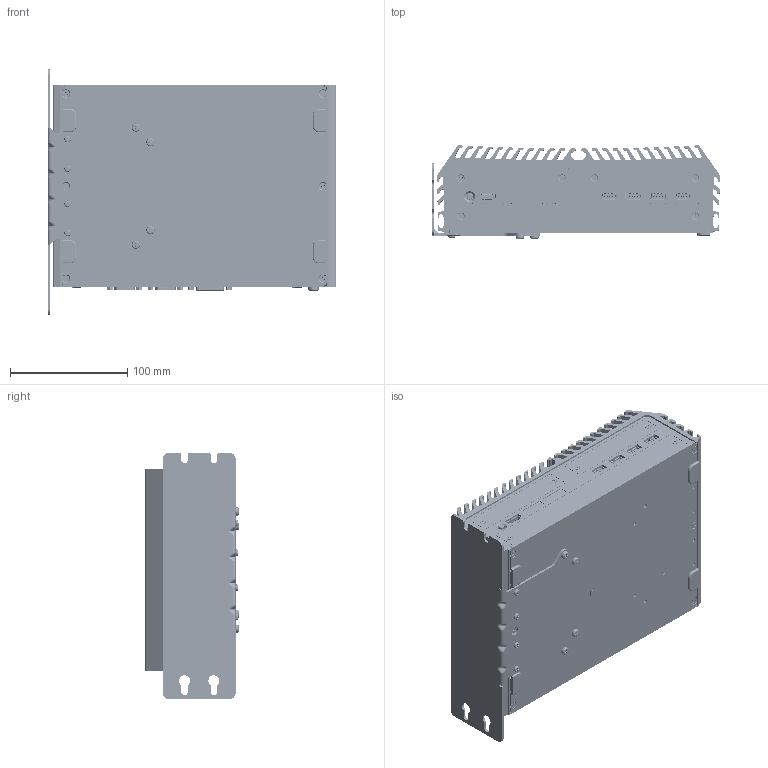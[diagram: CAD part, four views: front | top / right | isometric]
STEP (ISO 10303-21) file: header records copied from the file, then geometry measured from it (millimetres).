
FILE_DESCRIPTION (( 'STEP AP203' ), '1' );
FILE_NAME ('DX-1200+Side Mount_20230703.STEP', '2023-07-03T02:55:06', ( '' ), ( '' ), 'SwSTEP 2.0', 'SolidWorks 2014', '' );
FILE_SCHEMA (( 'CONFIG_CONTROL_DESIGN' ));
Length unit declared in the file: millimetre
Products named in the file (31): PWR_BTN_TC003; Top Cover; Rubber Foot(M4-RUFT0100001); WHDM-19FLBSDR; Terminal Block_ECH350R-02P(23-D0341500020); Top Cover(M1-408100006300); Symbol_Panel(M0-ZZZZ5C3003); Main Board; Audio Jack_雙層_T-A032134001(23-D0262300090); Bottom Cover(M1-408100011100); Side Mount Stand(M1-208100061200); Copper Stud_S38400B25N01(M3-COSD6L00000); D-SUB 9_雙層_D20H1P1PA112A111N2(23-D0101100181); Front Bezel(M1-408110024100); P頭_M3x5(十字)(M3-N103050010); F頭_M3x5(T10)(120)_黑(M3-N103052230); Terminal Block_ECH350R-04P(23-D0341500040); Rear Bezel(M1-408100031200); P頭_M4x5(十字)(M3-SCRE5B00002); F頭_M3X8(T10)(90)_黑(M3-N103082260); DVI-1-H-RISE(23-D0092300293); Front Matching Bezel(CNC)(M1-408100081220); DX-1200+Side Mount_20230703; F頭_M3x18(T10)(120)+溝槽_黑(M3-1103182270); RJ45+USB3.0x2_三層_JFM38U1B_B313_4F(23-D0202300320); Small Matching Bezel(M1-408100081200); P頭_M5x8(十字)(太陽華司)(M3-SCREAB00002) ; DC_IN1_5EHDRM-03P_8(23-D0341500030); DP1_Displayport_(23-D0242300200); Hole_Plug,MHD-7(M4-RUBR0100000); USB3.0_SMT_122-0921NA0504(23-S0142300090)
Assembly tree (71 placements, depth 3):
  DX-1200+Side Mount_20230703
    Top Cover(M1-408100006300)
      Top Cover
    Bottom Cover(M1-408100011100)
    Front Bezel(M1-408110024100)
    Rear Bezel(M1-408100031200)
    Front Matching Bezel(CNC)(M1-408100081220)
    Small Matching Bezel(M1-408100081200)  x4
    Main Board
      DP1_Displayport_(23-D0242300200)
      PWR_BTN_TC003
      Terminal Block_ECH350R-02P(23-D0341500020)
      Audio Jack_雙層_T-A032134001(23-D0262300090)
      D-SUB 9_雙層_D20H1P1PA112A111N2(23-D0101100181)  x2
      Terminal Block_ECH350R-04P(23-D0341500040)
      DVI-1-H-RISE(23-D0092300293)
      RJ45+USB3.0x2_三層_JFM38U1B_B313_4F(23-D0202300320)  x2
      DC_IN1_5EHDRM-03P_8(23-D0341500030)
      USB3.0_SMT_122-0921NA0504(23-S0142300090)  x4
      WHDM-19FLBSDR
    Copper Stud_S38400B25N01(M3-COSD6L00000)  x10
    F頭_M3x5(T10)(120)_黑(M3-N103052230)  x8
    F頭_M3X8(T10)(90)_黑(M3-N103082260)  x6
    F頭_M3x18(T10)(120)+溝槽_黑(M3-1103182270)  x2
    P頭_M5x8(十字)(太陽華司)(M3-SCREAB00002) 
    Hole_Plug,MHD-7(M4-RUBR0100000)  x3
    Rubber Foot(M4-RUFT0100001)  x4
    Symbol_Panel(M0-ZZZZ5C3003)
    Side Mount Stand(M1-208100061200)
    P頭_M3x5(十字)(M3-N103050010)  x4
    P頭_M4x5(十字)(M3-SCRE5B00002)  x4
Bounding box: 246.36 x 79.58 x 210 mm (x, y, z)
Volume: 829111.4 mm3; surface area: 555372.6 mm2
Topology: 108 solids, 279 shells, 25915 faces, 72834 edges, 47069 vertices
Faces by surface type: plane 16113, cylinder 7619, bspline 1502, cone 451, torus 211, sphere 19
Entity records: 576410 total; most frequent: CARTESIAN_POINT 168195, ORIENTED_EDGE 89512, DIRECTION 76280, EDGE_CURVE 44869, VECTOR 31884, LINE 31884, VERTEX_POINT 29051, AXIS2_PLACEMENT_3D 22198
